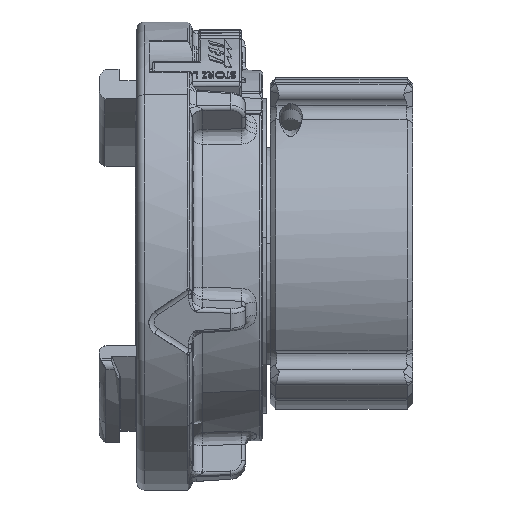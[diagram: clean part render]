
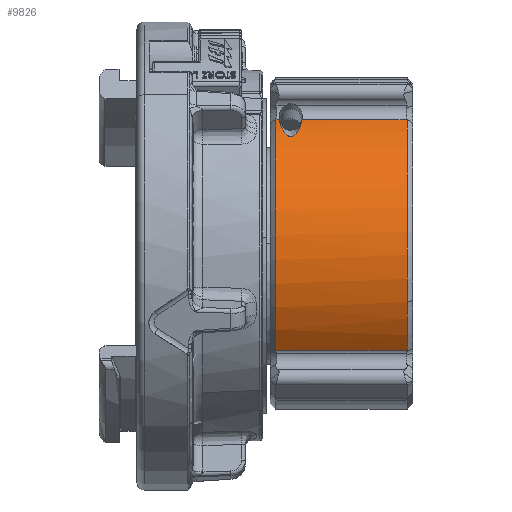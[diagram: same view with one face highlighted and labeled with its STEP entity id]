
A CAD part, top view. The second image highlights one B-rep face of the part: STEP entity #9826.
In plain terms, the highlighted cylindrical face has radius 64.135 mm (diameter 128.27 mm), a partial arc.
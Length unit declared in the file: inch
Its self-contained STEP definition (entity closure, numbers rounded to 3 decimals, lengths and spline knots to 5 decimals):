
#1031 = VERTEX_POINT ( 'NONE', #3134 ) ;
#1395 = VERTEX_POINT ( 'NONE', #3456 ) ;
#1397 = VERTEX_POINT ( 'NONE', #3458 ) ;
#1399 = VERTEX_POINT ( 'NONE', #3460 ) ;
#1431 = VERTEX_POINT ( 'NONE', #3488 ) ;
#1525 = VERTEX_POINT ( 'NONE', #3564 ) ;
#1921 = VERTEX_POINT ( 'NONE', #3920 ) ;
#3134 = CARTESIAN_POINT ( 'NONE',  ( 9.24373, 2.32038, -3.8134 ) ) ;
#3456 = CARTESIAN_POINT ( 'NONE',  ( 8.81139, 2.32038, -3.8134 ) ) ;
#3458 = CARTESIAN_POINT ( 'NONE',  ( 10.97112, -1.47582, -2.98264 ) ) ;
#3460 = CARTESIAN_POINT ( 'NONE',  ( 10.97112, -0.68829, -2.56723 ) ) ;
#3488 = CARTESIAN_POINT ( 'NONE',  ( 8.86877, 2.32038, -3.8134 ) ) ;
#3564 = CARTESIAN_POINT ( 'NONE',  ( 8.81139, -1.47582, -2.98264 ) ) ;
#3920 = CARTESIAN_POINT ( 'NONE',  ( 10.97112, 2.32038, -3.8134 ) ) ;
#8257 = CIRCLE ( 'NONE', #39330, 2.525 ) ;
#8267 = LINE ( 'NONE', #53241, #8268 ) ;
#8268 = VECTOR ( 'NONE', #53244, 39.37008 ) ;
#9826 = ADVANCED_FACE ( 'NONE', ( #10610 ), #10612, .T. ) ;
#10610 = FACE_OUTER_BOUND ( 'NONE', #41256, .T. ) ;
#10612 = CYLINDRICAL_SURFACE ( 'NONE', #26845, 2.525 ) ;
#11349 = VECTOR ( 'NONE', #53453, 39.37008 ) ;
#15003 = EDGE_CURVE ( 'NONE', #1031, #1921, #48000, .T. ) ;
#15007 = EDGE_CURVE ( 'NONE', #1431, #1031, #15450, .T. ) ;
#15008 = EDGE_CURVE ( 'NONE', #1399, #1921, #48004, .T. ) ;
#15450 = B_SPLINE_CURVE_WITH_KNOTS ( 'NONE', 3,
 ( #32863, #32862, #32867, #32868, #32869, #32870, #32871, #32872, #32873, #32874, #32875, #32876, #32877, #32878, #32879, #32880, #32881, #32882, #32883, #32884, #32885, #32886, #32887, #32888, #32889, #32890, #32891, #32892, #32893, #32894, #32895, #32896, #32897, #32898, #32899, #32900, #32901, #32902, #32903, #32904, #32905, #32906 ),
 .UNSPECIFIED., .F., .F.,
 ( 4, 2, 2, 2, 2, 2, 2, 2, 2, 2, 2, 2, 2, 2, 2, 2, 2, 2, 2, 2, 4 ),
 ( 0., 0.00358, 0.00537, 0.00716, 0.00895, 0.01074, 0.01164, 0.01253, 0.01343, 0.01432, 0.01477, 0.01522, 0.01566, 0.01611, 0.01701, 0.0179, 0.01969, 0.02148, 0.02506, 0.02685, 0.02864 ),
 .UNSPECIFIED. ) ;
#21338 = ORIENTED_EDGE ( 'NONE', *, *, #15007, .F. ) ;
#21340 = ORIENTED_EDGE ( 'NONE', *, *, #51221, .F. ) ;
#21342 = ORIENTED_EDGE ( 'NONE', *, *, #51333, .F. ) ;
#21345 = ORIENTED_EDGE ( 'NONE', *, *, #51260, .T. ) ;
#21347 = ORIENTED_EDGE ( 'NONE', *, *, #51208, .T. ) ;
#21349 = ORIENTED_EDGE ( 'NONE', *, *, #15008, .T. ) ;
#21351 = ORIENTED_EDGE ( 'NONE', *, *, #15003, .F. ) ;
#26845 = AXIS2_PLACEMENT_3D ( 'NONE', #29295, #29246, #29247 ) ;
#27207 = AXIS2_PLACEMENT_3D ( 'NONE', #32910, #32911, #32912 ) ;
#29246 = DIRECTION ( 'NONE',  ( 1., 0., 0. ) ) ;
#29247 = DIRECTION ( 'NONE',  ( 0., 0.303, -0.953 ) ) ;
#29295 = CARTESIAN_POINT ( 'NONE',  ( 8.71625, 0.07755, -4.97329 ) ) ;
#32841 = CARTESIAN_POINT ( 'NONE',  ( 8.71625, 2.32038, -3.8134 ) ) ;
#32845 = DIRECTION ( 'NONE',  ( 1., 0., 0. ) ) ;
#32862 = CARTESIAN_POINT ( 'NONE',  ( 8.86909, 2.29859, -3.77127 ) ) ;
#32863 = CARTESIAN_POINT ( 'NONE',  ( 8.86877, 2.32038, -3.8134 ) ) ;
#32867 = CARTESIAN_POINT ( 'NONE',  ( 8.87357, 2.27591, -3.73032 ) ) ;
#32868 = CARTESIAN_POINT ( 'NONE',  ( 8.88436, 2.24052, -3.67032 ) ) ;
#32869 = CARTESIAN_POINT ( 'NONE',  ( 8.88865, 2.22849, -3.65057 ) ) ;
#32870 = CARTESIAN_POINT ( 'NONE',  ( 8.89859, 2.20399, -3.61153 ) ) ;
#32871 = CARTESIAN_POINT ( 'NONE',  ( 8.90425, 2.19148, -3.59219 ) ) ;
#32872 = CARTESIAN_POINT ( 'NONE',  ( 8.91701, 2.16633, -3.55444 ) ) ;
#32873 = CARTESIAN_POINT ( 'NONE',  ( 8.92411, 2.15366, -3.53598 ) ) ;
#32874 = CARTESIAN_POINT ( 'NONE',  ( 8.94025, 2.12832, -3.50005 ) ) ;
#32875 = CARTESIAN_POINT ( 'NONE',  ( 8.94925, 2.11564, -3.48256 ) ) ;
#32876 = CARTESIAN_POINT ( 'NONE',  ( 8.96488, 2.09681, -3.45726 ) ) ;
#32877 = CARTESIAN_POINT ( 'NONE',  ( 8.97044, 2.09056, -3.44898 ) ) ;
#32878 = CARTESIAN_POINT ( 'NONE',  ( 8.98261, 2.07823, -3.43284 ) ) ;
#32879 = CARTESIAN_POINT ( 'NONE',  ( 8.98927, 2.07209, -3.4249 ) ) ;
#32880 = CARTESIAN_POINT ( 'NONE',  ( 9.00407, 2.06048, -3.41006 ) ) ;
#32881 = CARTESIAN_POINT ( 'NONE',  ( 9.01217, 2.05496, -3.40309 ) ) ;
#32882 = CARTESIAN_POINT ( 'NONE',  ( 9.03136, 2.04582, -3.39165 ) ) ;
#32883 = CARTESIAN_POINT ( 'NONE',  ( 9.0425, 2.04233, -3.38734 ) ) ;
#32884 = CARTESIAN_POINT ( 'NONE',  ( 9.06076, 2.04192, -3.38683 ) ) ;
#32885 = CARTESIAN_POINT ( 'NONE',  ( 9.0667, 2.04259, -3.38766 ) ) ;
#32886 = CARTESIAN_POINT ( 'NONE',  ( 9.07809, 2.0452, -3.39089 ) ) ;
#32887 = CARTESIAN_POINT ( 'NONE',  ( 9.0833, 2.04705, -3.39319 ) ) ;
#32888 = CARTESIAN_POINT ( 'NONE',  ( 9.09314, 2.05141, -3.39865 ) ) ;
#32889 = CARTESIAN_POINT ( 'NONE',  ( 9.09767, 2.05389, -3.40176 ) ) ;
#32890 = CARTESIAN_POINT ( 'NONE',  ( 9.10615, 2.05912, -3.40836 ) ) ;
#32891 = CARTESIAN_POINT ( 'NONE',  ( 9.11011, 2.0619, -3.41188 ) ) ;
#32892 = CARTESIAN_POINT ( 'NONE',  ( 9.12143, 2.07052, -3.42288 ) ) ;
#32893 = CARTESIAN_POINT ( 'NONE',  ( 9.12817, 2.07662, -3.43074 ) ) ;
#32894 = CARTESIAN_POINT ( 'NONE',  ( 9.14056, 2.08893, -3.44684 ) ) ;
#32895 = CARTESIAN_POINT ( 'NONE',  ( 9.14623, 2.09521, -3.45514 ) ) ;
#32896 = CARTESIAN_POINT ( 'NONE',  ( 9.16218, 2.11419, -3.48058 ) ) ;
#32897 = CARTESIAN_POINT ( 'NONE',  ( 9.1714, 2.12707, -3.4983 ) ) ;
#32898 = CARTESIAN_POINT ( 'NONE',  ( 9.18795, 2.15288, -3.53484 ) ) ;
#32899 = CARTESIAN_POINT ( 'NONE',  ( 9.19513, 2.16566, -3.55346 ) ) ;
#32900 = CARTESIAN_POINT ( 'NONE',  ( 9.2144, 2.2035, -3.6102 ) ) ;
#32901 = CARTESIAN_POINT ( 'NONE',  ( 9.2243, 2.22803, -3.6492 ) ) ;
#32902 = CARTESIAN_POINT ( 'NONE',  ( 9.2352, 2.2636, -3.70943 ) ) ;
#32903 = CARTESIAN_POINT ( 'NONE',  ( 9.23815, 2.27526, -3.7298 ) ) ;
#32904 = CARTESIAN_POINT ( 'NONE',  ( 9.24235, 2.29818, -3.77121 ) ) ;
#32905 = CARTESIAN_POINT ( 'NONE',  ( 9.24357, 2.30943, -3.79223 ) ) ;
#32906 = CARTESIAN_POINT ( 'NONE',  ( 9.24373, 2.32038, -3.8134 ) ) ;
#32910 = CARTESIAN_POINT ( 'NONE',  ( 10.97112, 0.07755, -4.97329 ) ) ;
#32911 = DIRECTION ( 'NONE',  ( -1., 0., 0. ) ) ;
#32912 = DIRECTION ( 'NONE',  ( 0., -0.303, 0.953 ) ) ;
#39330 = AXIS2_PLACEMENT_3D ( 'NONE', #53188, #53189, #53190 ) ;
#39347 = AXIS2_PLACEMENT_3D ( 'NONE', #54188, #54190, #54192 ) ;
#41256 = EDGE_LOOP ( 'NONE', ( #21338, #21340, #21342, #21345, #21347, #21349, #21351 ) ) ;
#48000 = LINE ( 'NONE', #32841, #48002 ) ;
#48002 = VECTOR ( 'NONE', #32845, 39.37008 ) ;
#48004 = CIRCLE ( 'NONE', #27207, 2.525 ) ;
#48484 = LINE ( 'NONE', #53451, #11349 ) ;
#51208 = EDGE_CURVE ( 'NONE', #1397, #1399, #8257, .T. ) ;
#51221 = EDGE_CURVE ( 'NONE', #1395, #1431, #8267, .T. ) ;
#51260 = EDGE_CURVE ( 'NONE', #1525, #1397, #48484, .T. ) ;
#51333 = EDGE_CURVE ( 'NONE', #1525, #1395, #54857, .T. ) ;
#53188 = CARTESIAN_POINT ( 'NONE',  ( 10.97112, 0.07755, -4.97329 ) ) ;
#53189 = DIRECTION ( 'NONE',  ( -1., 0., 0. ) ) ;
#53190 = DIRECTION ( 'NONE',  ( 0., -0.303, 0.953 ) ) ;
#53241 = CARTESIAN_POINT ( 'NONE',  ( 8.71625, 2.32038, -3.8134 ) ) ;
#53244 = DIRECTION ( 'NONE',  ( 1., 0., 0. ) ) ;
#53451 = CARTESIAN_POINT ( 'NONE',  ( 8.71625, -1.47582, -2.98264 ) ) ;
#53453 = DIRECTION ( 'NONE',  ( 1., 0., 0. ) ) ;
#54188 = CARTESIAN_POINT ( 'NONE',  ( 8.81139, 0.07755, -4.97329 ) ) ;
#54190 = DIRECTION ( 'NONE',  ( -1., 0., 0. ) ) ;
#54192 = DIRECTION ( 'NONE',  ( 0., 0.303, -0.953 ) ) ;
#54857 = CIRCLE ( 'NONE', #39347, 2.525 ) ;
